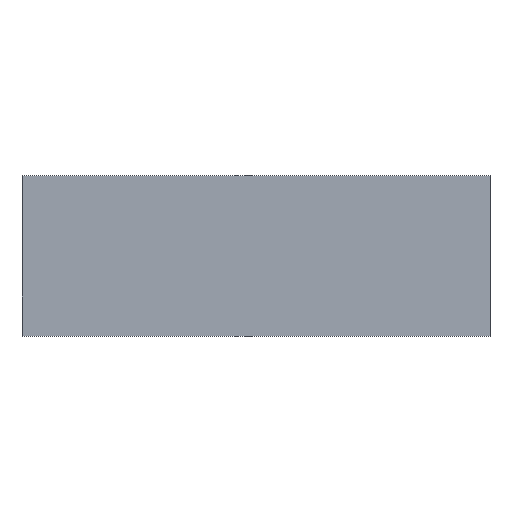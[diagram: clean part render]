
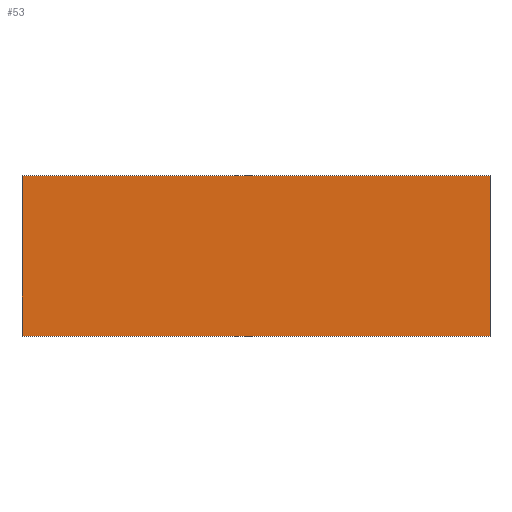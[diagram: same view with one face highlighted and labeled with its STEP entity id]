
A CAD part, top view. The second image highlights one B-rep face of the part: STEP entity #53.
In plain terms, the highlighted planar face has unit normal (0, 0, 1).
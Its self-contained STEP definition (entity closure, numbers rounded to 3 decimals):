
#7 = ORIENTED_EDGE ( 'NONE', *, *, #105, .T. ) ;
#11 = ORIENTED_EDGE ( 'NONE', *, *, #230, .T. ) ;
#12 = VERTEX_POINT ( 'NONE', #42 ) ;
#14 = CARTESIAN_POINT ( 'NONE',  ( -152., 52., 20. ) ) ;
#26 = DIRECTION ( 'NONE',  ( 1., 0., 0. ) ) ;
#31 = PLANE ( 'NONE',  #116 ) ;
#32 = CARTESIAN_POINT ( 'NONE',  ( 152., -52., 20. ) ) ;
#34 = DIRECTION ( 'NONE',  ( 0., 0., -1. ) ) ;
#42 = CARTESIAN_POINT ( 'NONE',  ( -152., -52., 20. ) ) ;
#53 = ADVANCED_FACE ( 'NONE', ( #62 ), #31, .F. ) ;
#59 = VERTEX_POINT ( 'NONE', #32 ) ;
#60 = VERTEX_POINT ( 'NONE', #122 ) ;
#62 = FACE_OUTER_BOUND ( 'NONE', #128, .T. ) ;
#63 = CARTESIAN_POINT ( 'NONE',  ( -152., -52., 20. ) ) ;
#65 = EDGE_CURVE ( 'NONE', #155, #12, #102, .T. ) ;
#67 = VECTOR ( 'NONE', #158, 1000. ) ;
#100 = VECTOR ( 'NONE', #217, 1000. ) ;
#102 = LINE ( 'NONE', #104, #100 ) ;
#104 = CARTESIAN_POINT ( 'NONE',  ( -152., -52., 20. ) ) ;
#105 = EDGE_CURVE ( 'NONE', #60, #155, #156, .T. ) ;
#106 = EDGE_CURVE ( 'NONE', #59, #60, #143, .T. ) ;
#116 = AXIS2_PLACEMENT_3D ( 'NONE', #200, #34, #216 ) ;
#122 = CARTESIAN_POINT ( 'NONE',  ( 152., 52., 20. ) ) ;
#128 = EDGE_LOOP ( 'NONE', ( #152, #7, #153, #11 ) ) ;
#138 = CARTESIAN_POINT ( 'NONE',  ( 152., -52., 20. ) ) ;
#143 = LINE ( 'NONE', #138, #67 ) ;
#152 = ORIENTED_EDGE ( 'NONE', *, *, #106, .T. ) ;
#153 = ORIENTED_EDGE ( 'NONE', *, *, #65, .T. ) ;
#155 = VERTEX_POINT ( 'NONE', #196 ) ;
#156 = LINE ( 'NONE', #14, #223 ) ;
#158 = DIRECTION ( 'NONE',  ( 0., 1., 0. ) ) ;
#163 = DIRECTION ( 'NONE',  ( -1., 0., 0. ) ) ;
#196 = CARTESIAN_POINT ( 'NONE',  ( -152., 52., 20. ) ) ;
#200 = CARTESIAN_POINT ( 'NONE',  ( 0., 0., 20. ) ) ;
#205 = VECTOR ( 'NONE', #26, 1000. ) ;
#216 = DIRECTION ( 'NONE',  ( -1., 0., 0. ) ) ;
#217 = DIRECTION ( 'NONE',  ( 0., -1., 0. ) ) ;
#223 = VECTOR ( 'NONE', #163, 1000. ) ;
#229 = LINE ( 'NONE', #63, #205 ) ;
#230 = EDGE_CURVE ( 'NONE', #12, #59, #229, .T. ) ;
